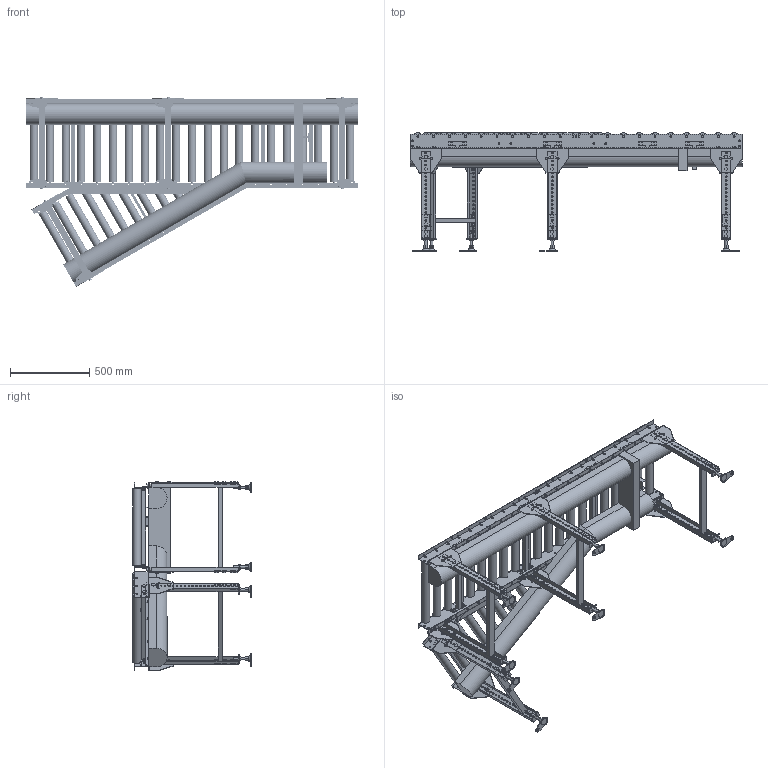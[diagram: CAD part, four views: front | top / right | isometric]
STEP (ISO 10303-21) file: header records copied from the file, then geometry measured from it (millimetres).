
FILE_DESCRIPTION( (''), '2;1');
FILE_NAME ('WEB-MCD-50-500-100-210-L-J30.stp','2025-07-01T15:47:29',(''),(''),'spGate 20.6.2 (****-****-****-****)','','');
FILE_SCHEMA (('AUTOMOTIVE_DESIGN'));
Length unit declared in the file: millimetre
Products named in the file (60): WEB-MCD-50-500-100-210-L-J30; TEMP_X_T-prt0; TEMP_X_T-prt1; TEMP_X_T-prt2; TEMP_X_T-prt3; TEMP_X_T-prt4; TEMP_X_T-prt5; TEMP_X_T-prt6; TEMP_X_T-prt7; TEMP_X_T-prt8; TEMP_X_T-prt9; TEMP_X_T-prt10; TEMP_X_T-prt11; TEMP_X_T-prt12; TEMP_X_T-prt13; TEMP_X_T-prt14; TEMP_X_T-prt15; TEMP_X_T-prt16; TEMP_X_T-prt17; TEMP_X_T-prt18; TEMP_X_T-prt19; TEMP_X_T-prt20; TEMP_X_T-prt21; TEMP_X_T-prt22; TEMP_X_T-prt23; TEMP_X_T-prt24; TEMP_X_T-prt25; TEMP_X_T-prt26; TEMP_X_T-prt27; TEMP_X_T-prt28; TEMP_X_T-prt29; TEMP_X_T-prt30; TEMP_X_T-prt31; TEMP_X_T-prt32; TEMP_X_T-prt33; TEMP_X_T-prt34; TEMP_X_T-prt35; TEMP_X_T-prt36; TEMP_X_T-prt37; TEMP_X_T-prt38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
Assembly tree (59 placements, depth 2):
  WEB-MCD-50-500-100-210-L-J30
    TEMP_X_T-prt0
    TEMP_X_T-prt1
    TEMP_X_T-prt2
    TEMP_X_T-prt3
    TEMP_X_T-prt4
    TEMP_X_T-prt5
    TEMP_X_T-prt6
    TEMP_X_T-prt7
    TEMP_X_T-prt8
    TEMP_X_T-prt9
    TEMP_X_T-prt10
    TEMP_X_T-prt11
    TEMP_X_T-prt12
    TEMP_X_T-prt13
    TEMP_X_T-prt14
    TEMP_X_T-prt15
    TEMP_X_T-prt16
    TEMP_X_T-prt17
    TEMP_X_T-prt18
    TEMP_X_T-prt19
    TEMP_X_T-prt20
    TEMP_X_T-prt21
    TEMP_X_T-prt22
    TEMP_X_T-prt23
    TEMP_X_T-prt24
    TEMP_X_T-prt25
    TEMP_X_T-prt26
    TEMP_X_T-prt27
    TEMP_X_T-prt28
    TEMP_X_T-prt29
    TEMP_X_T-prt30
    TEMP_X_T-prt31
    TEMP_X_T-prt32
    TEMP_X_T-prt33
    TEMP_X_T-prt34
    TEMP_X_T-prt35
    TEMP_X_T-prt36
    TEMP_X_T-prt37
    TEMP_X_T-prt38
    TEMP_X_T-prt39
    TEMP_X_T-prt40
    TEMP_X_T-prt41
    TEMP_X_T-prt42
    TEMP_X_T-prt43
    TEMP_X_T-prt44
    TEMP_X_T-prt45
    TEMP_X_T-prt46
    TEMP_X_T-prt47
    TEMP_X_T-prt48
    TEMP_X_T-prt49
    TEMP_X_T-prt50
    TEMP_X_T-prt51
    TEMP_X_T-prt52
    TEMP_X_T-prt53
    TEMP_X_T-prt54
    TEMP_X_T-prt55
    TEMP_X_T-prt56
    TEMP_X_T-prt57
    TEMP_X_T-prt58
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Bounding box: 2100 x 750 x 1200.96 mm (x, y, z)
Volume: 95078294.7 mm3; surface area: 8386103.3 mm2
Topology: 59 solids, 99 shells, 4099 faces, 10859 edges, 7133 vertices
Faces by surface type: plane 3301, cylinder 790, bspline 8
Full cylindrical faces by diameter (mm): 9 x12, 10 x104, 10.5 x184, 11 x64, 12 x57, 13 x24, 16 x8, 18.4 x48, 18.5 x16, 21 x24, 50.8 x32
Entity records: 217193 total; most frequent: CARTESIAN_POINT 23940, DIRECTION 21945, ORIENTED_EDGE 21718, COLOUR_RGB 15017, PRESENTATION_STYLE_ASSIGNMENT 15017, STYLED_ITEM 15017, EDGE_CURVE 10859, DRAUGHTING_PRE_DEFINED_CURVE_FONT 10859
